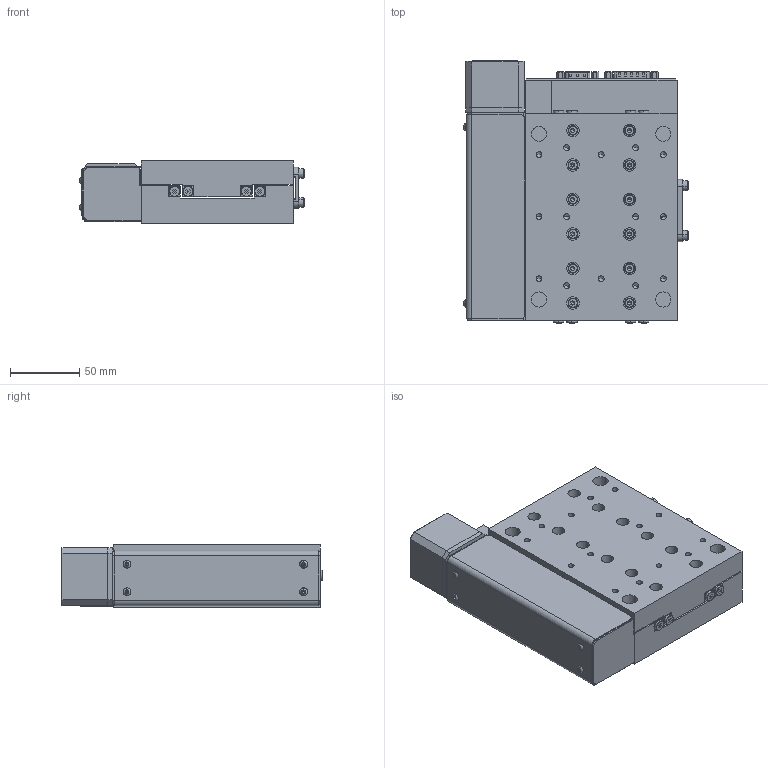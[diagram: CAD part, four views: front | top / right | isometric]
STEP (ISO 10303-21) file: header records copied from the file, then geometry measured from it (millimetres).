
FILE_DESCRIPTION (( 'STEP AP214' ), '1' );
FILE_NAME ('LNS-050-HS-C-N-S-EXPORT.STEP', '2025-06-27T18:08:28', ( 'lab' ), ( '' ), 'SwSTEP 2.0', 'SolidWorks 2018', '' );
FILE_SCHEMA (( 'AUTOMOTIVE_DESIGN' ));
Length unit declared in the file: millimetre
Products named in the file (9): 1000011_file_export14; 1000002; 1000010_file_export16; 1000001_50 Stepper Leadscrew; 1000012_file_export17; 1000014_file_export23; 1000013_file_export22; LNS-050-HS-C-N-S-EXPORT; 1000015_file_export21
Assembly tree (14 placements, depth 2):
  LNS-050-HS-C-N-S-EXPORT
    1000001_50 Stepper Leadscrew
    1000002
    1000010_file_export16  x4
    1000011_file_export14
    1000012_file_export17
    1000013_file_export22  x4
    1000014_file_export23
    1000015_file_export21
Bounding box: 162.5 x 189.8 x 45 mm (x, y, z)
Volume: 1075059.6 mm3; surface area: 217310.7 mm2
Topology: 70 solids, 70 shells, 1721 faces, 3893 edges, 2358 vertices
Faces by surface type: plane 1059, cylinder 326, bspline 170, cone 158, torus 8
Entity records: 54437 total; most frequent: CARTESIAN_POINT 13614, DIRECTION 7067, ORIENTED_EDGE 7038, EDGE_CURVE 3519, AXIS2_PLACEMENT_3D 2374, LINE 2319, VECTOR 2319, VERTEX_POINT 2181
